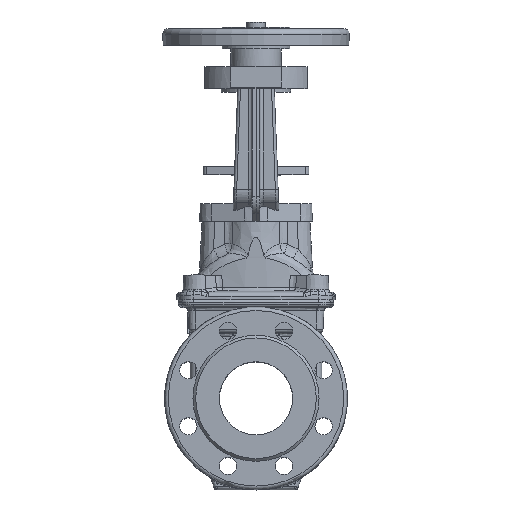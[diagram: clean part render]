
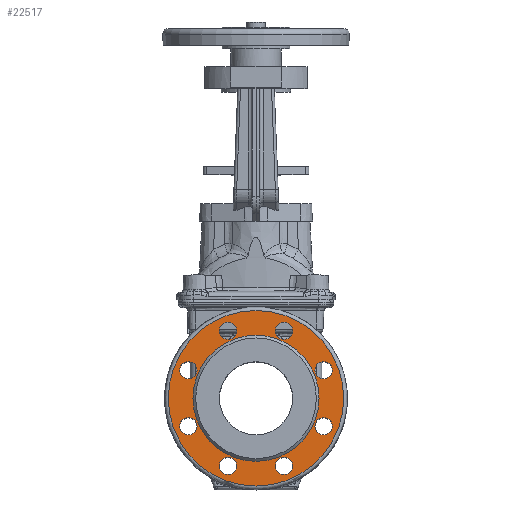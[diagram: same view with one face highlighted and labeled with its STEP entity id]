
A CAD part, top view. The second image highlights one B-rep face of the part: STEP entity #22517.
In plain terms, the highlighted planar face has unit normal (0, 0, 1).
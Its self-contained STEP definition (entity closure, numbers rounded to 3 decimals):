
#234 = DIRECTION ( 'NONE',  ( 1., 0., 0. ) ) ;
#235 = DIRECTION ( 'NONE',  ( 0., 0., 1. ) ) ;
#237 = CARTESIAN_POINT ( 'NONE',  ( -30.615, 73.91, 98.5 ) ) ;
#484 = DIRECTION ( 'NONE',  ( -1., 0., 0. ) ) ;
#505 = DIRECTION ( 'NONE',  ( 0., 0., -1. ) ) ;
#525 = CARTESIAN_POINT ( 'NONE',  ( 73.91, -30.615, 98.5 ) ) ;
#695 = DIRECTION ( 'NONE',  ( 1., 0., 0. ) ) ;
#698 = DIRECTION ( 'NONE',  ( 0., 0., 1. ) ) ;
#702 = CARTESIAN_POINT ( 'NONE',  ( -73.91, 30.615, 98.5 ) ) ;
#2104 = CIRCLE ( 'NONE', #36495, 9.5 ) ;
#2127 = CIRCLE ( 'NONE', #36500, 9.5 ) ;
#2991 = VERTEX_POINT ( 'NONE', #7147 ) ;
#2993 = VERTEX_POINT ( 'NONE', #7149 ) ;
#2994 = VERTEX_POINT ( 'NONE', #7150 ) ;
#2995 = VERTEX_POINT ( 'NONE', #7151 ) ;
#2996 = VERTEX_POINT ( 'NONE', #7152 ) ;
#2997 = VERTEX_POINT ( 'NONE', #7153 ) ;
#3005 = VERTEX_POINT ( 'NONE', #7161 ) ;
#3006 = VERTEX_POINT ( 'NONE', #7162 ) ;
#3054 = VERTEX_POINT ( 'NONE', #7211 ) ;
#3055 = VERTEX_POINT ( 'NONE', #7212 ) ;
#3993 = CARTESIAN_POINT ( 'NONE',  ( 30.615, -73.91, 98.5 ) ) ;
#3995 = DIRECTION ( 'NONE',  ( 0., 0., -1. ) ) ;
#3997 = DIRECTION ( 'NONE',  ( -1., 0., 0. ) ) ;
#4131 = CARTESIAN_POINT ( 'NONE',  ( 30.615, 73.91, 98.5 ) ) ;
#4133 = DIRECTION ( 'NONE',  ( 0., 0., -1. ) ) ;
#4135 = DIRECTION ( 'NONE',  ( -1., 0., 0. ) ) ;
#5553 = DIRECTION ( 'NONE',  ( 0., -1., 0. ) ) ;
#5554 = DIRECTION ( 'NONE',  ( 0., 0., 1. ) ) ;
#5555 = CARTESIAN_POINT ( 'NONE',  ( 0., 0., 98.5 ) ) ;
#5565 = DIRECTION ( 'NONE',  ( 1., 0., 0. ) ) ;
#5566 = DIRECTION ( 'NONE',  ( 0., 0., 1. ) ) ;
#5567 = CARTESIAN_POINT ( 'NONE',  ( -73.91, -30.615, 98.5 ) ) ;
#7147 = CARTESIAN_POINT ( 'NONE',  ( -64.41, -30.615, 98.5 ) ) ;
#7149 = CARTESIAN_POINT ( 'NONE',  ( 0., -96., 98.5 ) ) ;
#7150 = CARTESIAN_POINT ( 'NONE',  ( -64.41, 30.615, 98.5 ) ) ;
#7151 = CARTESIAN_POINT ( 'NONE',  ( 64.41, -30.615, 98.5 ) ) ;
#7152 = CARTESIAN_POINT ( 'NONE',  ( -21.115, 73.91, 98.5 ) ) ;
#7153 = CARTESIAN_POINT ( 'NONE',  ( 0., -69., 98.5 ) ) ;
#7161 = CARTESIAN_POINT ( 'NONE',  ( 64.41, 30.615, 98.5 ) ) ;
#7162 = CARTESIAN_POINT ( 'NONE',  ( -21.115, -73.91, 98.5 ) ) ;
#7211 = CARTESIAN_POINT ( 'NONE',  ( 21.115, -73.91, 98.5 ) ) ;
#7212 = CARTESIAN_POINT ( 'NONE',  ( 21.115, 73.91, 98.5 ) ) ;
#7819 = FACE_BOUND ( 'NONE', #12685, .T. ) ;
#7837 = FACE_BOUND ( 'NONE', #12681, .T. ) ;
#7839 = FACE_BOUND ( 'NONE', #12684, .T. ) ;
#7843 = FACE_BOUND ( 'NONE', #12683, .T. ) ;
#7848 = FACE_BOUND ( 'NONE', #12680, .T. ) ;
#7850 = FACE_BOUND ( 'NONE', #12687, .T. ) ;
#7852 = FACE_BOUND ( 'NONE', #12688, .T. ) ;
#7854 = FACE_BOUND ( 'NONE', #12689, .T. ) ;
#7856 = FACE_OUTER_BOUND ( 'NONE', #12690, .T. ) ;
#7859 = FACE_BOUND ( 'NONE', #12692, .T. ) ;
#11205 = CIRCLE ( 'NONE', #32172, 9.5 ) ;
#11208 = CIRCLE ( 'NONE', #32169, 96. ) ;
#11234 = CIRCLE ( 'NONE', #32144, 9.5 ) ;
#11242 = CIRCLE ( 'NONE', #32142, 9.5 ) ;
#11252 = CIRCLE ( 'NONE', #32152, 9.5 ) ;
#11266 = CIRCLE ( 'NONE', #32145, 69. ) ;
#11343 = CIRCLE ( 'NONE', #11896, 9.5 ) ;
#11344 = CIRCLE ( 'NONE', #11895, 9.5 ) ;
#11895 = AXIS2_PLACEMENT_3D ( 'NONE', #30223, #30224, #30225 ) ;
#11896 = AXIS2_PLACEMENT_3D ( 'NONE', #30219, #30220, #30221 ) ;
#12010 = ORIENTED_EDGE ( 'NONE', *, *, #13041, .F. ) ;
#12012 = ORIENTED_EDGE ( 'NONE', *, *, #12865, .T. ) ;
#12013 = ORIENTED_EDGE ( 'NONE', *, *, #12988, .F. ) ;
#12015 = ORIENTED_EDGE ( 'NONE', *, *, #12951, .F. ) ;
#12017 = ORIENTED_EDGE ( 'NONE', *, *, #12859, .F. ) ;
#12020 = ORIENTED_EDGE ( 'NONE', *, *, #13218, .F. ) ;
#12021 = ORIENTED_EDGE ( 'NONE', *, *, #34868, .T. ) ;
#12022 = ORIENTED_EDGE ( 'NONE', *, *, #13214, .T. ) ;
#12023 = ORIENTED_EDGE ( 'NONE', *, *, #12968, .T. ) ;
#12024 = ORIENTED_EDGE ( 'NONE', *, *, #34853, .T. ) ;
#12680 = EDGE_LOOP ( 'NONE', ( #12024 ) ) ;
#12681 = EDGE_LOOP ( 'NONE', ( #12023 ) ) ;
#12683 = EDGE_LOOP ( 'NONE', ( #12022 ) ) ;
#12684 = EDGE_LOOP ( 'NONE', ( #12021 ) ) ;
#12685 = EDGE_LOOP ( 'NONE', ( #12020 ) ) ;
#12687 = EDGE_LOOP ( 'NONE', ( #12017 ) ) ;
#12688 = EDGE_LOOP ( 'NONE', ( #12015 ) ) ;
#12689 = EDGE_LOOP ( 'NONE', ( #12013 ) ) ;
#12690 = EDGE_LOOP ( 'NONE', ( #12012 ) ) ;
#12692 = EDGE_LOOP ( 'NONE', ( #12010 ) ) ;
#12859 = EDGE_CURVE ( 'NONE', #2991, #2991, #11205, .T. ) ;
#12865 = EDGE_CURVE ( 'NONE', #2993, #2993, #11208, .T. ) ;
#12951 = EDGE_CURVE ( 'NONE', #2994, #2994, #11234, .T. ) ;
#12968 = EDGE_CURVE ( 'NONE', #2995, #2995, #11242, .T. ) ;
#12988 = EDGE_CURVE ( 'NONE', #2996, #2996, #11252, .T. ) ;
#13041 = EDGE_CURVE ( 'NONE', #2997, #2997, #11266, .T. ) ;
#13214 = EDGE_CURVE ( 'NONE', #3005, #3005, #11343, .T. ) ;
#13218 = EDGE_CURVE ( 'NONE', #3006, #3006, #11344, .T. ) ;
#22517 = ADVANCED_FACE ( 'NONE', ( #7848, #7837, #7843, #7839, #7819, #7850, #7852, #7854, #7856, #7859 ), #31179, .T. ) ;
#29937 = CARTESIAN_POINT ( 'NONE',  ( 0., 0., 98.5 ) ) ;
#29938 = DIRECTION ( 'NONE',  ( 0., 0., 1. ) ) ;
#29939 = DIRECTION ( 'NONE',  ( 0., -1., 0. ) ) ;
#30219 = CARTESIAN_POINT ( 'NONE',  ( 73.91, 30.615, 98.5 ) ) ;
#30220 = DIRECTION ( 'NONE',  ( 0., 0., -1. ) ) ;
#30221 = DIRECTION ( 'NONE',  ( -1., 0., 0. ) ) ;
#30223 = CARTESIAN_POINT ( 'NONE',  ( -30.615, -73.91, 98.5 ) ) ;
#30224 = DIRECTION ( 'NONE',  ( 0., 0., 1. ) ) ;
#30225 = DIRECTION ( 'NONE',  ( 1., 0., 0. ) ) ;
#31131 = DIRECTION ( 'NONE',  ( 0., 0., 1. ) ) ;
#31179 = PLANE ( 'NONE',  #32370 ) ;
#31180 = CARTESIAN_POINT ( 'NONE',  ( 0., 69., 98.5 ) ) ;
#31182 = DIRECTION ( 'NONE',  ( 0., -1., 0. ) ) ;
#32142 = AXIS2_PLACEMENT_3D ( 'NONE', #525, #505, #484 ) ;
#32144 = AXIS2_PLACEMENT_3D ( 'NONE', #702, #698, #695 ) ;
#32145 = AXIS2_PLACEMENT_3D ( 'NONE', #29937, #29938, #29939 ) ;
#32152 = AXIS2_PLACEMENT_3D ( 'NONE', #237, #235, #234 ) ;
#32169 = AXIS2_PLACEMENT_3D ( 'NONE', #5555, #5554, #5553 ) ;
#32172 = AXIS2_PLACEMENT_3D ( 'NONE', #5567, #5566, #5565 ) ;
#32370 = AXIS2_PLACEMENT_3D ( 'NONE', #31180, #31131, #31182 ) ;
#34853 = EDGE_CURVE ( 'NONE', #3054, #3054, #2104, .T. ) ;
#34868 = EDGE_CURVE ( 'NONE', #3055, #3055, #2127, .T. ) ;
#36495 = AXIS2_PLACEMENT_3D ( 'NONE', #3993, #3995, #3997 ) ;
#36500 = AXIS2_PLACEMENT_3D ( 'NONE', #4131, #4133, #4135 ) ;
